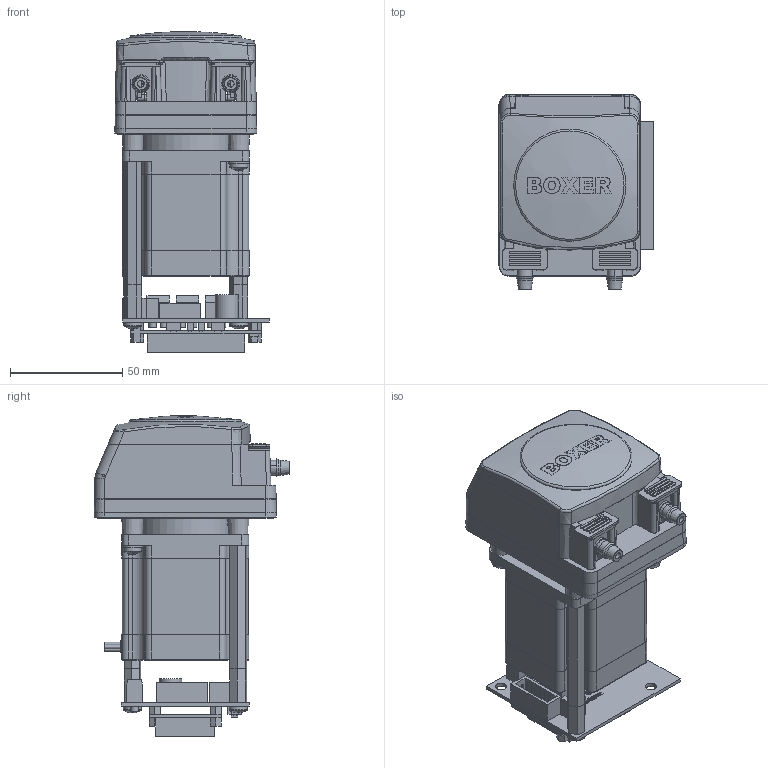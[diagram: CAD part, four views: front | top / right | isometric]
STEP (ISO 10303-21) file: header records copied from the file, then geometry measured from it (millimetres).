
FILE_DESCRIPTION (( 'STEP AP203' ), '1' );
FILE_NAME ('SOLID_15KU_NEMA23+iD.STEP', '2023-03-08T10:16:24', ( '' ), ( '' ), 'SwSTEP 2.0', 'SolidWorks 2021', '' );
FILE_SCHEMA (( 'CONFIG_CONTROL_DESIGN' ));
Length unit declared in the file: millimetre
Products named in the file (1): SOLID_15KU_NEMA23+iD
Bounding box: 68.62 x 87.06 x 142.8 mm (x, y, z)
Volume: 276640 mm3; surface area: 111366.2 mm2
Topology: 22 solids, 22 shells, 2324 faces, 5949 edges, 3790 vertices
Faces by surface type: plane 1234, cylinder 393, bspline 305, cone 235, torus 102, sphere 55
Full cylindrical faces by diameter (mm): 1 x2, 1.6 x4, 2 x6, 2.5 x3, 3 x7, 3.2 x4, 3.3 x10, 3.5 x1, 4 x6, 4.1 x1, 4.2 x2, 5 x4, 5.087 x4, 5.5 x1, 6 x1, 8 x4, 10.2 x1, 38 x1, 50 x1
Entity records: 83190 total; most frequent: CARTESIAN_POINT 30063, ORIENTED_EDGE 11484, DIRECTION 10043, EDGE_CURVE 5742, VERTEX_POINT 3734, AXIS2_PLACEMENT_3D 3445, LINE 3153, VECTOR 3153
